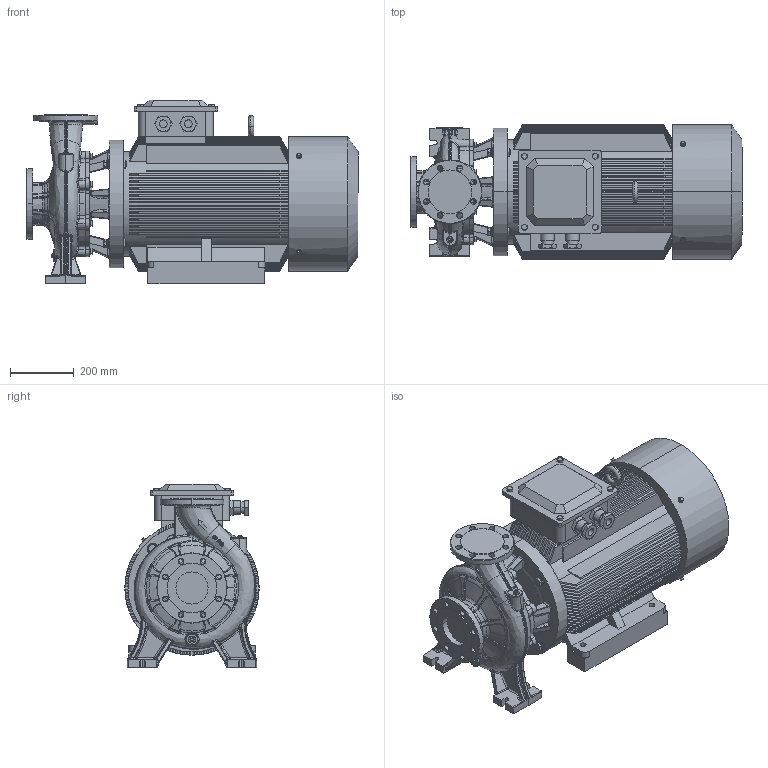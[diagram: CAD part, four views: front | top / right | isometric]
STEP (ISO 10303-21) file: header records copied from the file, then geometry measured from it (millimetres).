
FILE_DESCRIPTION (( 'STEP AP203' ), '1' );
FILE_NAME ('TST80-250-37 安装尺寸图.STEP', '2026-04-28T10:05:52', ( '微软用户' ), ( '微软中国' ), 'SwSTEP 2.0', 'SolidWorks 2020', '' );
FILE_SCHEMA (( 'CONFIG_CONTROL_DESIGN' ));
Products named in the file (1): TST80-250-37 假蚾喜渡芞
Bounding box: 1039 x 420 x 575 mm (x, y, z)
Volume: 111336403.8 mm3; surface area: 5893412.8 mm2
Topology: 1 solids, 1 shells, 2991 faces, 7279 edges, 4378 vertices
Faces by surface type: bspline 966, plane 742, cone 543, cylinder 538, torus 131, sphere 71
Entity records: 132443 total; most frequent: CARTESIAN_POINT 70099, ORIENTED_EDGE 14550, DIRECTION 11047, EDGE_CURVE 7275, AXIS2_PLACEMENT_3D 4620, VERTEX_POINT 4378, EDGE_LOOP 3161, ADVANCED_FACE 2991
